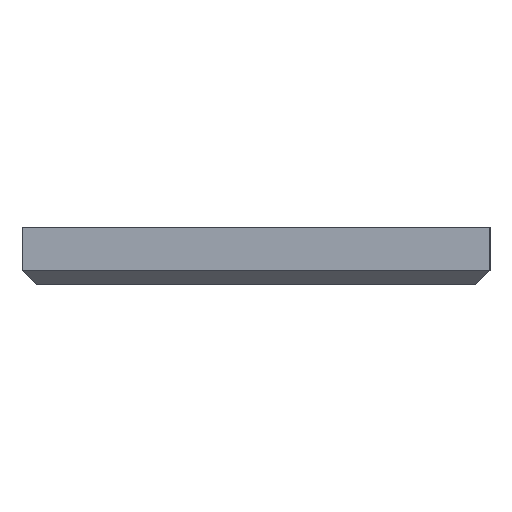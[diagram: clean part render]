
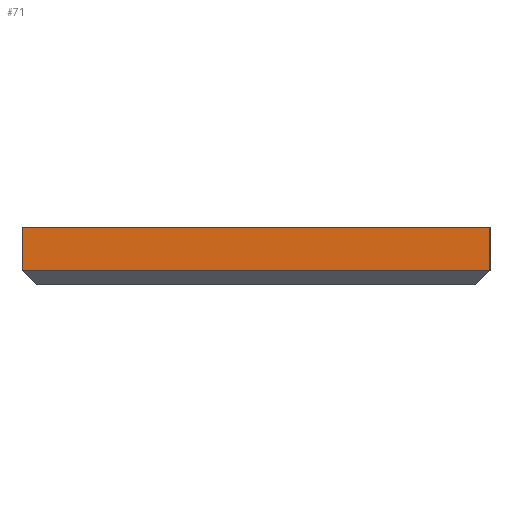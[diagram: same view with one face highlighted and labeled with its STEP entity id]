
A CAD part, left-side view. The second image highlights one B-rep face of the part: STEP entity #71.
In plain terms, the highlighted planar face has unit normal (-1, 0, 0).
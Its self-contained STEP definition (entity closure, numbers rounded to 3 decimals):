
#71=ADVANCED_FACE('',(#1585),#1587,.T.);
#1585=FACE_BOUND('',#1586,.T.);
#1586=EDGE_LOOP('',(#2951,#2952,#2953,#2954));
#1587=PLANE('',#1588);
#1588=AXIS2_PLACEMENT_3D('',#1589,#1590,#1591);
#1589=CARTESIAN_POINT('',(-300.,58.,0.));
#1590=DIRECTION('',(-1.,0.,0.));
#1591=DIRECTION('',(0.,-1.,0.));
#2951=ORIENTED_EDGE('',*,*,#3538,.T.);
#2952=ORIENTED_EDGE('',*,*,#3539,.T.);
#2953=ORIENTED_EDGE('',*,*,#3437,.F.);
#2954=ORIENTED_EDGE('',*,*,#3540,.F.);
#3437=EDGE_CURVE('',#3731,#3732,#3733,.T.);
#3538=EDGE_CURVE('',#3933,#3934,#3935,.T.);
#3539=EDGE_CURVE('',#3934,#3732,#3936,.T.);
#3540=EDGE_CURVE('',#3933,#3731,#3937,.T.);
#3731=VERTEX_POINT('',#4255);
#3732=VERTEX_POINT('',#4256);
#3733=LINE('',#4257,#4258);
#3933=VERTEX_POINT('',#4728);
#3934=VERTEX_POINT('',#4729);
#3935=LINE('',#4730,#4731);
#3936=LINE('',#4733,#4734);
#3937=LINE('',#4736,#4737);
#4255=CARTESIAN_POINT('',(-300.,58.,12.2));
#4256=CARTESIAN_POINT('',(-300.,-42.,12.2));
#4257=CARTESIAN_POINT('',(-300.,58.,12.2));
#4258=VECTOR('',#4259,1.);
#4259=DIRECTION('',(0.,-1.,0.));
#4728=CARTESIAN_POINT('',(-300.,58.,3.));
#4729=CARTESIAN_POINT('',(-300.,-42.,3.));
#4730=CARTESIAN_POINT('',(-300.,58.,3.));
#4731=VECTOR('',#4732,1.);
#4732=DIRECTION('',(0.,-1.,0.));
#4733=CARTESIAN_POINT('',(-300.,-42.,3.));
#4734=VECTOR('',#4735,1.);
#4735=DIRECTION('',(0.,0.,1.));
#4736=CARTESIAN_POINT('',(-300.,58.,3.));
#4737=VECTOR('',#4738,1.);
#4738=DIRECTION('',(0.,0.,1.));
